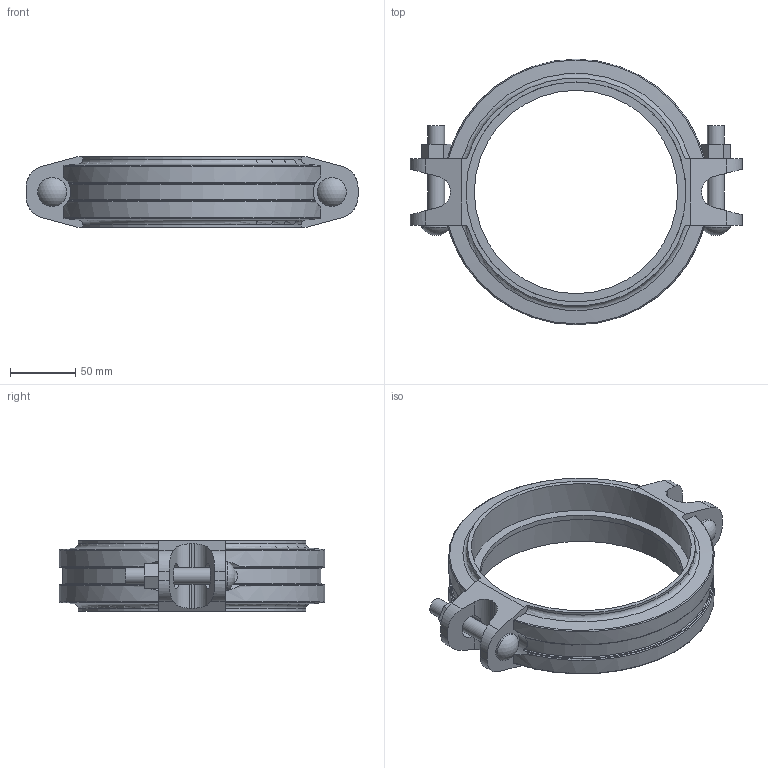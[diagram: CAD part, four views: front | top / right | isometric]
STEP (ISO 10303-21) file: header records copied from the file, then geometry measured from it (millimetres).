
FILE_DESCRIPTION(/* description */ ('VIC STYLE 005H FIRELOCK RIGID COUPLING','CAx-IF Rec.Pracs.---Representation and Presentation of Product Manufacturing Information (PMI)---4.0---2014-10-13'),/* implementation_level */ '2;1');
FILE_NAME(/* name */ 'C:\Users\Vjadhav\Desktop\CAD for Inventor\1\Coupling bolt thickness\005H\STEP\Victaulic_FP-FireLock_Coupling Rigid_Style 005H (OGS)\Victaulic_FP-FireLock_Coupling Rigid_Style 005H (OGS)_6 (150).stp',/* time_stamp */ '2022-03-28T11:25:12+06:00',/* author */ ('jheald'),/* organization */ ('Victaulic'),/* preprocessor_version */ 'ST-DEVELOPER v17.2',/* originating_system */ 'Autodesk Inventor 2019',/* authorisation */ '');
FILE_SCHEMA (('AP242_MANAGED_MODEL_BASED_3D_ENGINEERING_MIM_LF { 1 0 10303 442 1 1 4 }'));
Length unit declared in the file: inch
Products named in the file (1): 005H-06.0
Bounding box: 254 x 203.2 x 54.1 mm (x, y, z)
Volume: 513052.1 mm3; surface area: 106538.6 mm2
Topology: 1 solids, 1 shells, 121 faces, 357 edges, 242 vertices
Faces by surface type: plane 56, cylinder 43, torus 16, cone 4, sphere 2
Full cylindrical faces by diameter (mm): 12.7 x4, 22.225 x2, 155.575 x1, 168.275 x2
Entity records: 4948 total; most frequent: CARTESIAN_POINT 1438, ORIENTED_EDGE 714, DIRECTION 685, EDGE_CURVE 357, AXIS2_PLACEMENT_3D 253, VERTEX_POINT 242, LINE 179, VECTOR 179
